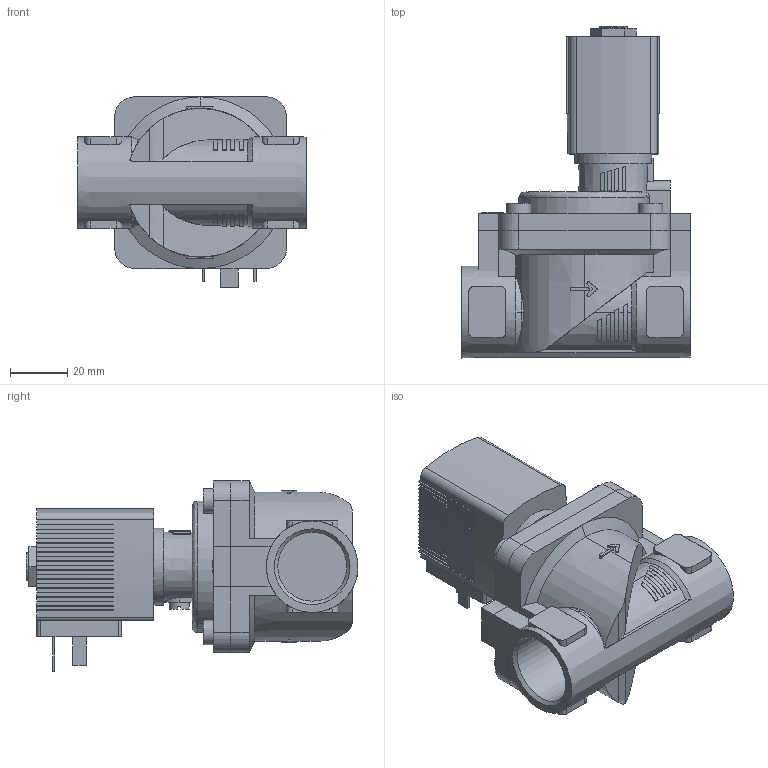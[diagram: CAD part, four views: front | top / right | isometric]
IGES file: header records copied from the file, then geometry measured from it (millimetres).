
Start section: Data from Parasolid IGES Translator 26.0.171, Copyright(c) 2006 Siemens PLM Software. All Rights Reserved.
Global section: file name: 6281-372228-2_2-Way_Solenoid_Valve__Servo-assisted__General_Purpose.igs; native system: By Siemens PLM Incorporated; preprocessor: XPlus GENERIC/IGES 26.0.171; author: Noname; organization: Noname; date: 20240820.171817; units: millimetre
Bounding box: 80 x 116 x 66.5 mm (x, y, z)
Surface area: 43186.3 mm2 (no closed solid volume)
Topology: 0 solids, 0 shells, 565 faces, 3110 edges, 3091 vertices
Faces by surface type: extrusion 439, revolution 126
